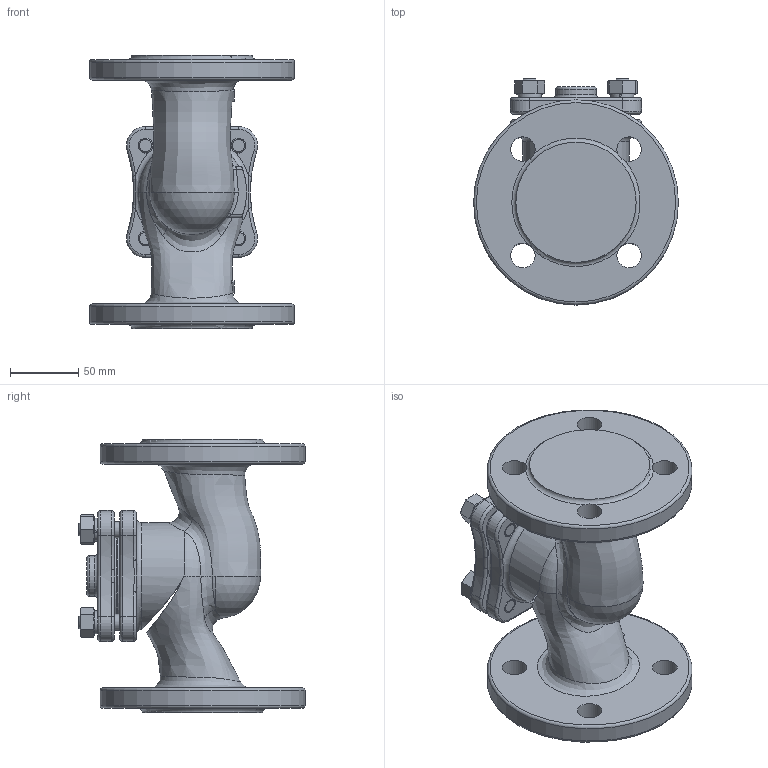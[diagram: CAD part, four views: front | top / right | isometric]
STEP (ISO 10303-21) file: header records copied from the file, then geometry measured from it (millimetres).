
FILE_DESCRIPTION(/* description */ (''),/* implementation_level */ '2;1');
FILE_NAME(/* name */ 'ZV226_DN40.stp',/* time_stamp */ '2012-11-09T09:16:23+01:00',/* author */ (''),/* organization */ ('LDM'),/* preprocessor_version */ 'ST-DEVELOPER v11',/* originating_system */ 'SIEMENS PLM Software NX 7.0',/* authorisation */ '');
FILE_SCHEMA (('CONFIG_CONTROL_DESIGN'));
Length unit declared in the file: millimetre
Products named in the file (1): adam1FBC7ioy
Bounding box: 150 x 165.5 x 200 mm (x, y, z)
Volume: 1378538.7 mm3; surface area: 154003.6 mm2
Topology: 1 solids, 1 shells, 286 faces, 726 edges, 438 vertices
Faces by surface type: plane 86, cone 61, cylinder 60, torus 50, bspline 28, sphere 1
Full cylindrical faces by diameter (mm): 10.917 x4, 12 x4, 14 x4, 18 x8, 30 x1, 72 x1, 78 x2, 150 x2
Entity records: 12447 total; most frequent: CARTESIAN_POINT 6268, DIRECTION 1244, ORIENTED_EDGE 1242, EDGE_CURVE 621, AXIS2_PLACEMENT_3D 570, VERTEX_POINT 391, EDGE_LOOP 380, CIRCLE 293
